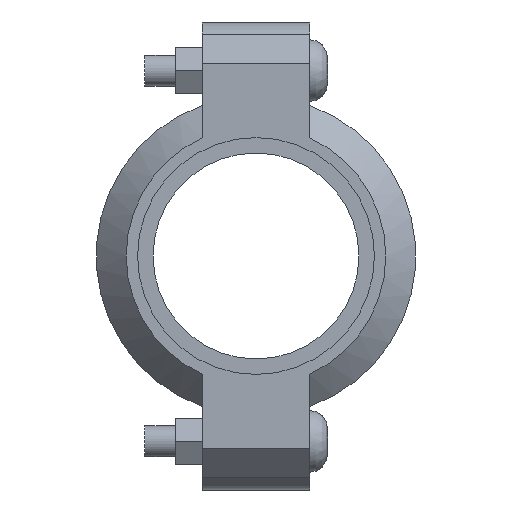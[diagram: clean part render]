
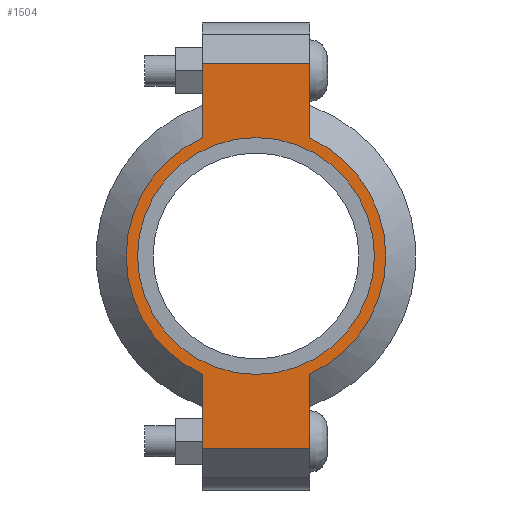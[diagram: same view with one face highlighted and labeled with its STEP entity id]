
A CAD part, left-side view. The second image highlights one B-rep face of the part: STEP entity #1504.
In plain terms, the highlighted planar face has unit normal (-1, 0, 0) as drawn and (0, 0, 1) by its records, which use the part's own axes.
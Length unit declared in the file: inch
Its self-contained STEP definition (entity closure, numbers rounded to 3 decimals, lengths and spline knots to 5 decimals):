
#184=LINE('',#2609,#275);
#192=LINE('',#2645,#283);
#199=LINE('',#2666,#290);
#208=LINE('',#2698,#299);
#209=LINE('',#2702,#300);
#210=LINE('',#2704,#301);
#275=VECTOR('',#2107,0.3937);
#283=VECTOR('',#2123,0.3937);
#290=VECTOR('',#2142,0.3937);
#299=VECTOR('',#2167,0.3937);
#300=VECTOR('',#2172,0.3937);
#301=VECTOR('',#2173,0.3937);
#353=FACE_BOUND('',#513,.T.);
#417=FACE_OUTER_BOUND('',#512,.T.);
#512=EDGE_LOOP('',(#1239,#1240,#1241,#1242,#1243,#1244,#1245,#1246));
#513=EDGE_LOOP('',(#1247));
#610=CIRCLE('',#1765,1.575);
#611=CIRCLE('',#1766,1.575);
#612=CIRCLE('',#1767,1.4375);
#715=VERTEX_POINT('',#2606);
#716=VERTEX_POINT('',#2608);
#727=VERTEX_POINT('',#2640);
#728=VERTEX_POINT('',#2644);
#735=VERTEX_POINT('',#2663);
#736=VERTEX_POINT('',#2665);
#746=VERTEX_POINT('',#2701);
#747=VERTEX_POINT('',#2703);
#748=VERTEX_POINT('',#2706);
#879=EDGE_CURVE('',#716,#715,#184,.T.);
#893=EDGE_CURVE('',#728,#727,#192,.T.);
#903=EDGE_CURVE('',#736,#735,#199,.T.);
#918=EDGE_CURVE('',#728,#715,#208,.T.);
#919=EDGE_CURVE('',#727,#736,#610,.T.);
#920=EDGE_CURVE('',#746,#735,#209,.T.);
#921=EDGE_CURVE('',#746,#747,#210,.T.);
#922=EDGE_CURVE('',#747,#716,#611,.T.);
#923=EDGE_CURVE('',#748,#748,#612,.T.);
#1239=ORIENTED_EDGE('',*,*,#918,.F.);
#1240=ORIENTED_EDGE('',*,*,#893,.T.);
#1241=ORIENTED_EDGE('',*,*,#919,.T.);
#1242=ORIENTED_EDGE('',*,*,#903,.T.);
#1243=ORIENTED_EDGE('',*,*,#920,.F.);
#1244=ORIENTED_EDGE('',*,*,#921,.T.);
#1245=ORIENTED_EDGE('',*,*,#922,.T.);
#1246=ORIENTED_EDGE('',*,*,#879,.T.);
#1247=ORIENTED_EDGE('',*,*,#923,.T.);
#1358=PLANE('',#1764);
#1504=ADVANCED_FACE('',(#417,#353),#1358,.T.);
#1764=AXIS2_PLACEMENT_3D('',#2699,#2168,#2169);
#1765=AXIS2_PLACEMENT_3D('',#2700,#2170,#2171);
#1766=AXIS2_PLACEMENT_3D('',#2705,#2174,#2175);
#1767=AXIS2_PLACEMENT_3D('',#2707,#2176,#2177);
#2107=DIRECTION('',(1.,0.,0.));
#2123=DIRECTION('',(-1.,0.,0.));
#2142=DIRECTION('',(-1.,0.,0.));
#2167=DIRECTION('',(0.,-1.,0.));
#2168=DIRECTION('center_axis',(0.,0.,1.));
#2169=DIRECTION('ref_axis',(-1.,0.,0.));
#2170=DIRECTION('center_axis',(0.,0.,1.));
#2171=DIRECTION('ref_axis',(1.,0.,0.));
#2172=DIRECTION('',(0.,1.,0.));
#2173=DIRECTION('',(1.,0.,0.));
#2174=DIRECTION('center_axis',(0.,0.,1.));
#2175=DIRECTION('ref_axis',(1.,0.,0.));
#2176=DIRECTION('center_axis',(0.,0.,-1.));
#2177=DIRECTION('ref_axis',(1.,0.,0.));
#2606=CARTESIAN_POINT('',(2.34,-0.65,0.94));
#2608=CARTESIAN_POINT('',(1.43462,-0.65,0.94));
#2609=CARTESIAN_POINT('',(2.84,-0.65,0.94));
#2640=CARTESIAN_POINT('',(1.43462,0.65,0.94));
#2644=CARTESIAN_POINT('',(2.34,0.65,0.94));
#2645=CARTESIAN_POINT('',(-2.84,0.65,0.94));
#2663=CARTESIAN_POINT('',(-2.34,0.65,0.94));
#2665=CARTESIAN_POINT('',(-1.43462,0.65,0.94));
#2666=CARTESIAN_POINT('',(-2.84,0.65,0.94));
#2698=CARTESIAN_POINT('',(2.34,-0.325,0.94));
#2699=CARTESIAN_POINT('Origin',(0.,0.,
0.94));
#2700=CARTESIAN_POINT('Origin',(0.,0.,0.94));
#2701=CARTESIAN_POINT('',(-2.34,-0.65,0.94));
#2702=CARTESIAN_POINT('',(-2.34,0.325,0.94));
#2703=CARTESIAN_POINT('',(-1.43462,-0.65,0.94));
#2704=CARTESIAN_POINT('',(2.84,-0.65,0.94));
#2705=CARTESIAN_POINT('Origin',(0.,0.,0.94));
#2706=CARTESIAN_POINT('',(-1.4375,0.,0.94));
#2707=CARTESIAN_POINT('Origin',(0.,0.,0.94));
